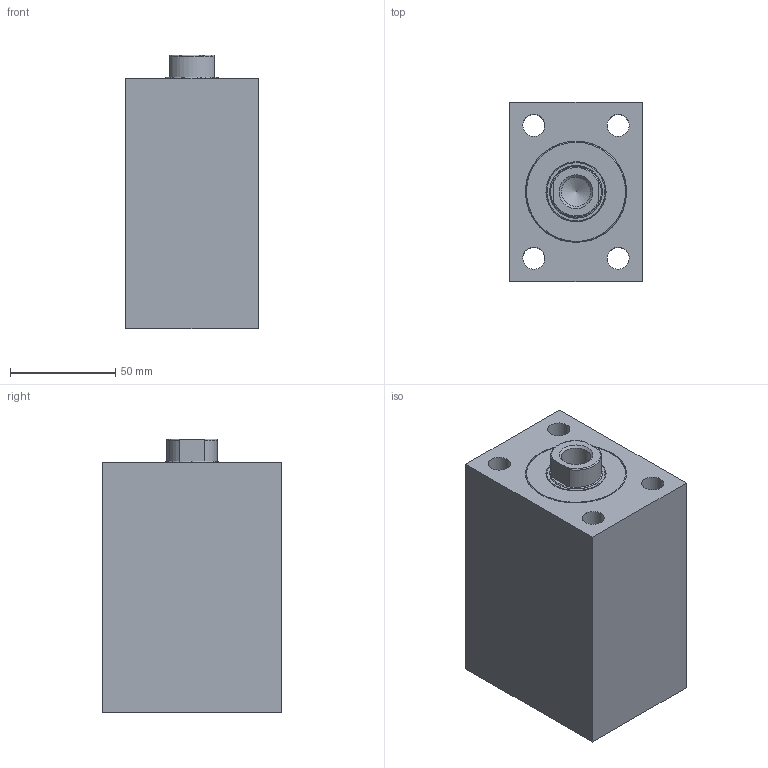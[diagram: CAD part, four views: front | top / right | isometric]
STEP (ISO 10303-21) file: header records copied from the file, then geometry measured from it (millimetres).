
FILE_DESCRIPTION( ( 'STEP AP203' ), '1' );
FILE_NAME( 'C:/Users/SAYKO.ltd/Desktop/SBZ100/02/SBZ100-40/SBZ100.40__FORM_02_STROKE_45__H2_58_POS_0_.stp', ' ', ( ' ' ), ( ' ' ), 'PSStep 15.0.47', 'PARTsolutions', ' ' );
FILE_SCHEMA( ( 'CONFIG_CONTROL_DESIGN' ) );
Length unit declared in the file: millimetre
Products named in the file (5): SBZ100.40  FORM=02 STROKE=45 (H2=58 POS=0); HI_SBZ10040  FORM=02 STROKE=45 H2=58 -C; HI_SBZ10040  FORM=02 STROKE=45-R; HI_SBZ100.40-C; HI_SBZ100.40-S
Assembly tree (4 placements, depth 2):
  SBZ100.40  FORM=02 STROKE=45 (H2=58 POS=0)
    HI_SBZ10040  FORM=02 STROKE=45 H2=58 -C
    HI_SBZ10040  FORM=02 STROKE=45-R
    HI_SBZ100.40-C
    HI_SBZ100.40-S
Bounding box: 63 x 85 x 130 mm (x, y, z)
Volume: 550390.8 mm3; surface area: 104182.1 mm2
Topology: 4 solids, 4 shells, 66 faces, 130 edges, 85 vertices
Faces by surface type: plane 31, cylinder 28, cone 4, torus 3
Full cylindrical faces by diameter (mm): 3 x2, 10.5 x4, 11.445 x2, 13.835 x1, 16 x2, 18 x4, 25 x4, 28.5 x1, 33 x2, 40 x2, 48 x2
Entity records: 3733 total; most frequent: CARTESIAN_POINT 2503, ORIENTED_EDGE 176, DIRECTION 158, EDGE_LOOP 128, FACE_OUTER_BOUND 93, EDGE_CURVE 88, VERTEX_POINT 77, B_SPLINE_CURVE_WITH_KNOTS 72
